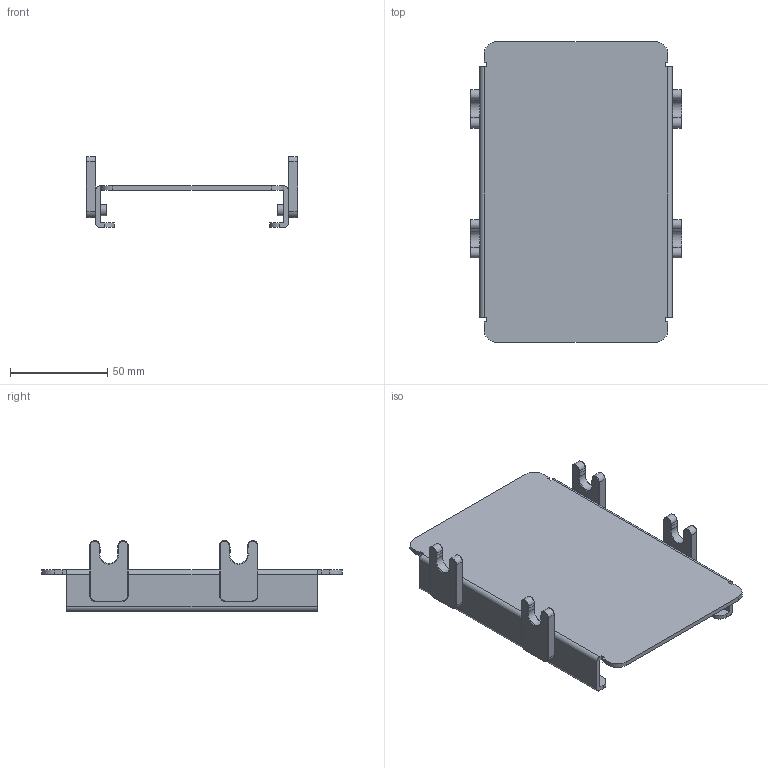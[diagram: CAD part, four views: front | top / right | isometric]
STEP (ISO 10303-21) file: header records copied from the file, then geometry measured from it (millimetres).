
FILE_DESCRIPTION((''),'2;1');
FILE_NAME('C:\old_Drawings\shrinkwrapped website .stp files\561460-STP.stp','2011-06-21T14:09:10',('GaryRobinson'),(''),'Autodesk Inventor 2011','Autodesk Inventor 2011','');
FILE_SCHEMA(('CONFIG_CONTROL_DESIGN'));
Length unit declared in the file: inch
Products named in the file (1): 561460-STP
Bounding box: 108.46 x 154.31 x 36.39 mm (x, y, z)
Surface area: 52137.4 mm2 (no closed solid volume)
Topology: 0 solids, 13 shells, 246 faces, 532 edges, 320 vertices
Faces by surface type: plane 122, cone 64, cylinder 60
Full cylindrical faces by diameter (mm): 3.505 x8, 5.74 x8
Entity records: 6804 total; most frequent: CARTESIAN_POINT 1171, DIRECTION 1154, ORIENTED_EDGE 1016, EDGE_CURVE 508, AXIS2_PLACEMENT_3D 431, VERTEX_POINT 320, VECTOR 292, LINE 292
